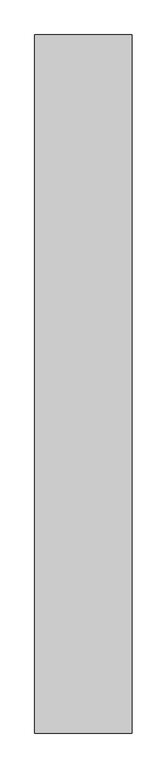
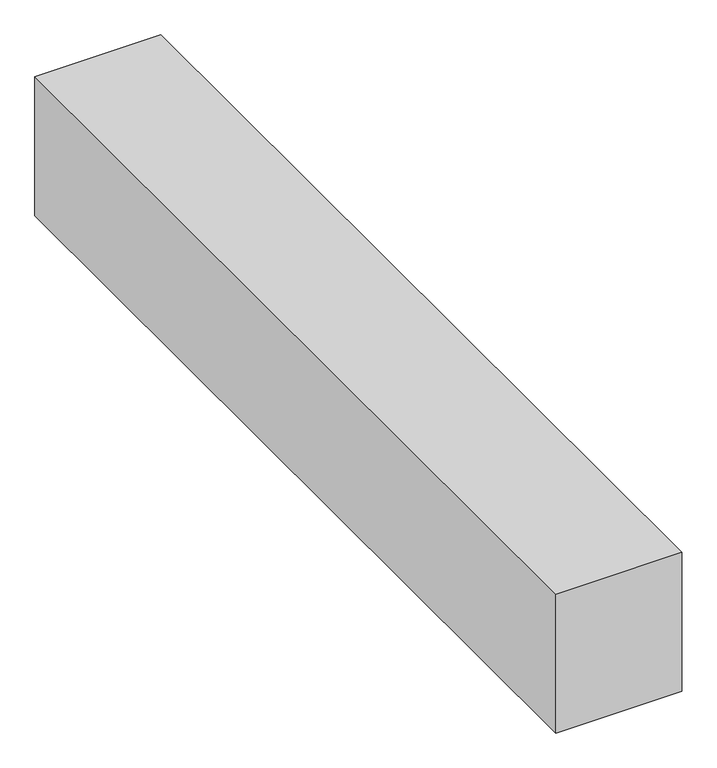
"""IFC4 building model written with IfcOpenShell, lengths in millimetres: proxy geometry, 制気口ボックス : 制気口ボックス."""

from ifc_helpers import new_model, si_unit, frame, origin, place, context, project, spatial, polyline, outline, extrude, source, transform, mapped, element, save


def mechanical_equipment_f242fb65(model_context):
    return source(origin(), model_context, "Body", "SweptSolid", [
        extrude(outline(polyline([(150.0, 1075.0), (150.0, -1075.0), (-150.0, -1075.0), (-150.0, 1075.0), (150.0, 1075.0)])), frame((0.0, 0.0, -175.0), z_axis=(0.0, 0.0, 1.0), x_axis=(1.0, 0.0, 0.0)), (0.0, 0.0, 1.0), 350.0),
    ])


if __name__ == "__main__":
    model = new_model("IFC4")
    model_context = context("Model", 3, world=origin())
    ifc_project = project(units=[si_unit("LENGTHUNIT", "METRE", prefix="MILLI")], contexts=[model_context])
    site = spatial("IfcSite", under=ifc_project)
    building = spatial("IfcBuilding", under=site)
    placement = place(None, origin())
    mechanical_equipment_shape = mechanical_equipment_f242fb65(model_context)
    element("IfcBuildingElementProxy", 1, Name="制気口ボックス : 制気口ボックス", ObjectType="制気口ボックス : 制気口ボックス", at=placement, inside=building, context=model_context, shape_type="MappedRepresentation", body=[
        mapped(mechanical_equipment_shape, transform((0.0, 0.0, 0.0), x_axis=(1.0, 0.0, 0.0), y_axis=(0.0, 1.0, 0.0), z_axis=(0.0, 0.0, 1.0))),
    ])
    save(model, "model.ifc")
